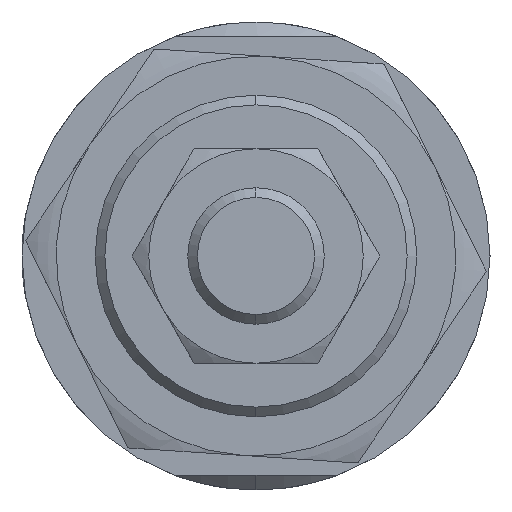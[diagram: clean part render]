
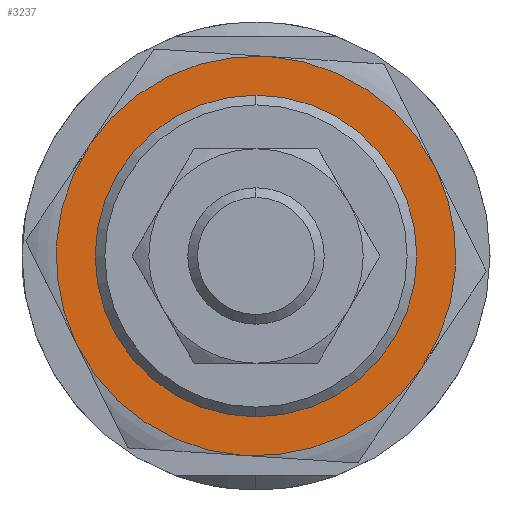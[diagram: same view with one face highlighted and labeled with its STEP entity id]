
A CAD part, left-side view. The second image highlights one B-rep face of the part: STEP entity #3237.
In plain terms, the highlighted planar face has unit normal (-1, 0, 0) as drawn and (0, 0, -1) by its records, which use the part's own axes.
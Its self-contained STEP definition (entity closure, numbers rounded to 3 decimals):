
#29 = DIRECTION ( 'NONE',  ( 1., 0., 0. ) ) ;
#39 = VERTEX_POINT ( 'NONE', #150 ) ;
#108 = AXIS2_PLACEMENT_3D ( 'NONE', #145, #1381, #2239 ) ;
#144 = EDGE_CURVE ( 'NONE', #39, #461, #2001, .T. ) ;
#145 = CARTESIAN_POINT ( 'NONE',  ( 0., 0., -5.5 ) ) ;
#150 = CARTESIAN_POINT ( 'NONE',  ( -15.5, 0., -5.5 ) ) ;
#162 = EDGE_CURVE ( 'NONE', #2700, #585, #2491, .T. ) ;
#191 = AXIS2_PLACEMENT_3D ( 'NONE', #1630, #734, #2950 ) ;
#210 = ORIENTED_EDGE ( 'NONE', *, *, #944, .F. ) ;
#341 = ORIENTED_EDGE ( 'NONE', *, *, #2971, .F. ) ;
#373 = DIRECTION ( 'NONE',  ( 1., 0., 0. ) ) ;
#461 = VERTEX_POINT ( 'NONE', #620 ) ;
#585 = VERTEX_POINT ( 'NONE', #3159 ) ;
#620 = CARTESIAN_POINT ( 'NONE',  ( 15.5, 0., -5.5 ) ) ;
#690 = DIRECTION ( 'NONE',  ( 0., 0., 1. ) ) ;
#696 = FACE_OUTER_BOUND ( 'NONE', #2659, .T. ) ;
#703 = DIRECTION ( 'NONE',  ( 0., 0., 1. ) ) ;
#734 = DIRECTION ( 'NONE',  ( 0., 0., 1. ) ) ;
#744 = VERTEX_POINT ( 'NONE', #1280 ) ;
#936 = CARTESIAN_POINT ( 'NONE',  ( -20.5, 0., -5.5 ) ) ;
#944 = EDGE_CURVE ( 'NONE', #1451, #2700, #3017, .T. ) ;
#963 = DIRECTION ( 'NONE',  ( 1., 0., 0. ) ) ;
#1072 = ORIENTED_EDGE ( 'NONE', *, *, #1429, .F. ) ;
#1080 = EDGE_CURVE ( 'NONE', #461, #39, #2440, .T. ) ;
#1096 = DIRECTION ( 'NONE',  ( 0., 0., 1. ) ) ;
#1176 = DIRECTION ( 'NONE',  ( 1., 0., 0. ) ) ;
#1186 = AXIS2_PLACEMENT_3D ( 'NONE', #2660, #2044, #1176 ) ;
#1257 = CARTESIAN_POINT ( 'NONE',  ( 0., 0., -5.5 ) ) ;
#1259 = AXIS2_PLACEMENT_3D ( 'NONE', #2126, #1096, #373 ) ;
#1262 = ORIENTED_EDGE ( 'NONE', *, *, #1080, .T. ) ;
#1280 = CARTESIAN_POINT ( 'NONE',  ( 10.25, 17.754, -5.5 ) ) ;
#1307 = DIRECTION ( 'NONE',  ( 0., 0., 1. ) ) ;
#1349 = AXIS2_PLACEMENT_3D ( 'NONE', #3415, #690, #1956 ) ;
#1381 = DIRECTION ( 'NONE',  ( 0., 0., 1. ) ) ;
#1398 = CIRCLE ( 'NONE', #108, 20.5 ) ;
#1429 = EDGE_CURVE ( 'NONE', #744, #2517, #2963, .T. ) ;
#1451 = VERTEX_POINT ( 'NONE', #936 ) ;
#1630 = CARTESIAN_POINT ( 'NONE',  ( 0., 0., -5.5 ) ) ;
#1748 = EDGE_CURVE ( 'NONE', #2517, #1451, #3035, .T. ) ;
#1839 = ORIENTED_EDGE ( 'NONE', *, *, #144, .T. ) ;
#1898 = VERTEX_POINT ( 'NONE', #1997 ) ;
#1956 = DIRECTION ( 'NONE',  ( 1., 0., 0. ) ) ;
#1976 = EDGE_LOOP ( 'NONE', ( #1262, #1839 ) ) ;
#1997 = CARTESIAN_POINT ( 'NONE',  ( 20.5, 0., -5.5 ) ) ;
#2001 = CIRCLE ( 'NONE', #2264, 15.5 ) ;
#2044 = DIRECTION ( 'NONE',  ( 0., 0., 1. ) ) ;
#2126 = CARTESIAN_POINT ( 'NONE',  ( 0., 0., -5.5 ) ) ;
#2159 = CARTESIAN_POINT ( 'NONE',  ( 0., 0., -5.5 ) ) ;
#2183 = AXIS2_PLACEMENT_3D ( 'NONE', #3088, #703, #2242 ) ;
#2233 = CARTESIAN_POINT ( 'NONE',  ( 0., 0., -5.5 ) ) ;
#2239 = DIRECTION ( 'NONE',  ( 1., 0., 0. ) ) ;
#2242 = DIRECTION ( 'NONE',  ( 1., 0., 0. ) ) ;
#2264 = AXIS2_PLACEMENT_3D ( 'NONE', #2233, #1307, #29 ) ;
#2334 = AXIS2_PLACEMENT_3D ( 'NONE', #1257, #2470, #2735 ) ;
#2338 = ORIENTED_EDGE ( 'NONE', *, *, #1748, .F. ) ;
#2361 = FACE_BOUND ( 'NONE', #1976, .T. ) ;
#2402 = AXIS2_PLACEMENT_3D ( 'NONE', #2159, #2955, #963 ) ;
#2440 = CIRCLE ( 'NONE', #191, 15.5 ) ;
#2470 = DIRECTION ( 'NONE',  ( 0., 0., 1. ) ) ;
#2491 = CIRCLE ( 'NONE', #1259, 20.5 ) ;
#2517 = VERTEX_POINT ( 'NONE', #2619 ) ;
#2619 = CARTESIAN_POINT ( 'NONE',  ( -10.25, 17.754, -5.5 ) ) ;
#2659 = EDGE_LOOP ( 'NONE', ( #341, #3015, #2867, #210, #2338, #1072 ) ) ;
#2660 = CARTESIAN_POINT ( 'NONE',  ( 0., 0., -5.5 ) ) ;
#2700 = VERTEX_POINT ( 'NONE', #2846 ) ;
#2735 = DIRECTION ( 'NONE',  ( 1., 0., 0. ) ) ;
#2846 = CARTESIAN_POINT ( 'NONE',  ( -10.25, -17.754, -5.5 ) ) ;
#2867 = ORIENTED_EDGE ( 'NONE', *, *, #162, .F. ) ;
#2950 = DIRECTION ( 'NONE',  ( 1., 0., 0. ) ) ;
#2955 = DIRECTION ( 'NONE',  ( 0., 0., 1. ) ) ;
#2963 = CIRCLE ( 'NONE', #2183, 20.5 ) ;
#2971 = EDGE_CURVE ( 'NONE', #1898, #744, #3354, .T. ) ;
#3015 = ORIENTED_EDGE ( 'NONE', *, *, #3331, .F. ) ;
#3017 = CIRCLE ( 'NONE', #2402, 20.5 ) ;
#3035 = CIRCLE ( 'NONE', #1186, 20.5 ) ;
#3088 = CARTESIAN_POINT ( 'NONE',  ( 0., 0., -5.5 ) ) ;
#3159 = CARTESIAN_POINT ( 'NONE',  ( 10.25, -17.754, -5.5 ) ) ;
#3192 = PLANE ( 'NONE',  #2334 ) ;
#3237 = ADVANCED_FACE ( 'NONE', ( #2361, #696 ), #3192, .F. ) ;
#3331 = EDGE_CURVE ( 'NONE', #585, #1898, #1398, .T. ) ;
#3354 = CIRCLE ( 'NONE', #1349, 20.5 ) ;
#3415 = CARTESIAN_POINT ( 'NONE',  ( 0., 0., -5.5 ) ) ;
